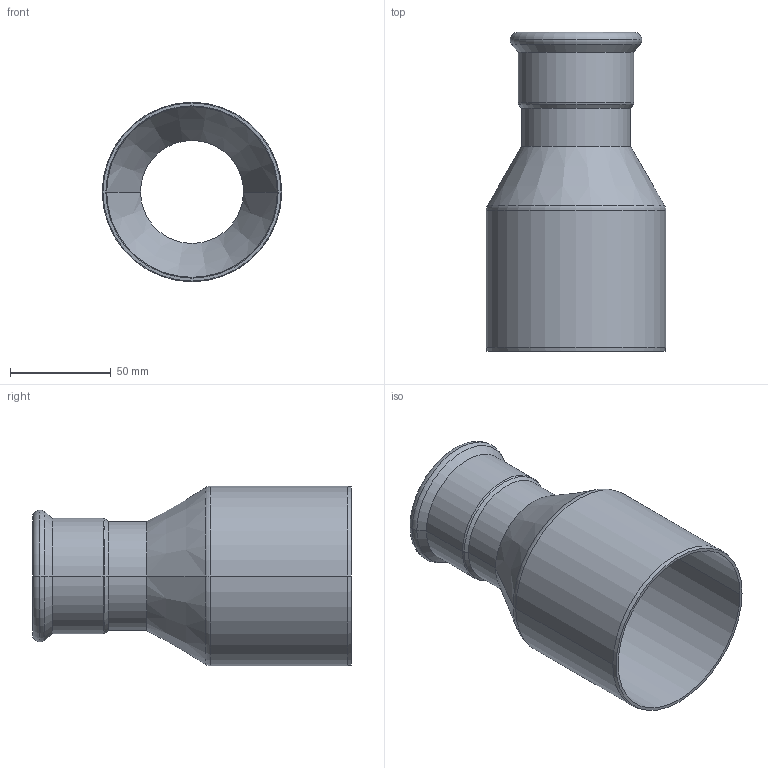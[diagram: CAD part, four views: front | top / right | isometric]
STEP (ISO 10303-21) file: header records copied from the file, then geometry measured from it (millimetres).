
FILE_DESCRIPTION(('CoCreate Modeling STEP Export'),'2;1');
FILE_NAME('C1407 54x88.9.stp','2014-11-07T16:38:11',(''),(''),'CoCreate Modeling STEP processor for AP214 (Solid Model)','CoCreate Modeling 17.00A 17-Jun-2010 (C) Parametric Technology GmbH','');
FILE_SCHEMA(('AUTOMOTIVE_DESIGN { 1 0 10303 214 1 1 1 1 }'));
Length unit declared in the file: millimetre
Products named in the file (2): C1407_54x89
Assembly tree (1 placements, depth 2):
  C1407_54x89
    C1407_54x89
Bounding box: 88.9 x 158 x 88.9 mm (x, y, z)
Volume: 68558.9 mm3; surface area: 75672.7 mm2
Topology: 1 solids, 1 shells, 38 faces, 78 edges, 44 vertices
Faces by surface type: cylinder 14, cone 10, torus 10, plane 4
Entity records: 848 total; most frequent: ORIENTED_EDGE 156, DIRECTION 130, CARTESIAN_POINT 121, EDGE_CURVE 78, AXIS2_PLACEMENT_3D 53, VERTEX_POINT 44, EDGE_LOOP 42, FACE_OUTER_BOUND 38
